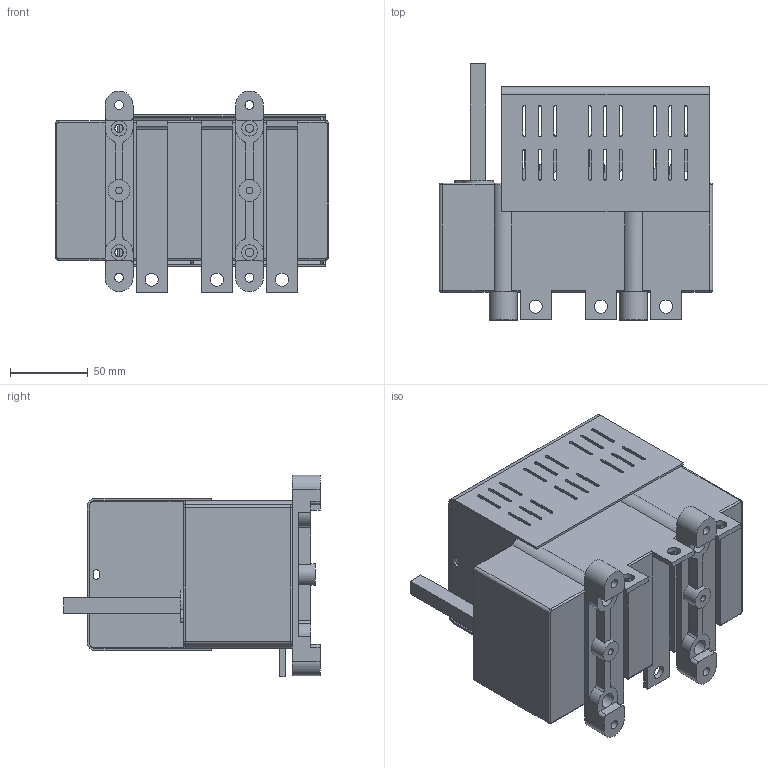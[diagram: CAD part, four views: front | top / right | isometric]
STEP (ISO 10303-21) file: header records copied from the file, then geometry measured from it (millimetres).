
FILE_DESCRIPTION(/* description */ (''),/* implementation_level */ '2;1');
FILE_NAME(/* name */ 'RAB 00 P3.stp',/* time_stamp */ '2021-08-19T11:11:58+02:00',/* author */ (''),/* organization */ (''),/* preprocessor_version */ 'ST-DEVELOPER v18.1',/* originating_system */ 'SIEMENS PLM Software NX 1965',/* authorisation */ '');
FILE_SCHEMA (('PROCESS_PLANNING_SCHEMA'));
Length unit declared in the file: millimetre
Products named in the file (1): RAB 00 P3 A_stp
Bounding box: 176 x 165 x 130 mm (x, y, z)
Volume: 1205013.5 mm3; surface area: 226866.8 mm2
Topology: 1 solids, 1 shells, 927 faces, 2633 edges, 1710 vertices
Faces by surface type: plane 584, cylinder 331, torus 7, bspline 5
Full cylindrical faces by diameter (mm): 2.7 x4, 4.3 x2, 5 x6, 5.2 x6, 5.3 x4, 5.8 x4, 8.5 x6, 10 x8, 14 x2
Entity records: 29996 total; most frequent: CARTESIAN_POINT 5394, ORIENTED_EDGE 5130, DIRECTION 5071, EDGE_CURVE 2565, LINE 1841, VECTOR 1841, VERTEX_POINT 1684, AXIS2_PLACEMENT_3D 1615
